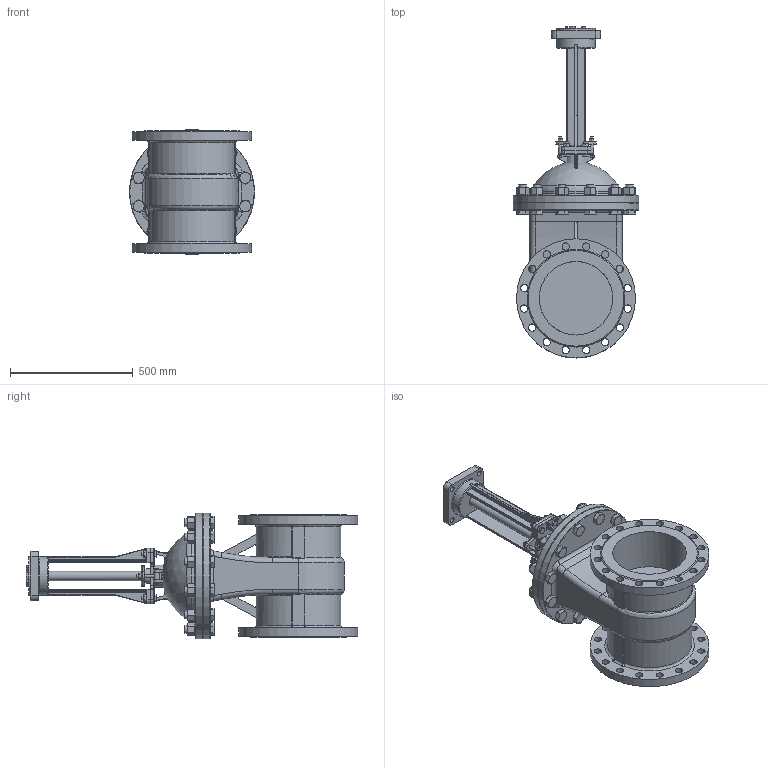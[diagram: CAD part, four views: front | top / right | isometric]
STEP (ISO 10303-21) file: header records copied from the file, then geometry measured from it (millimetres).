
FILE_DESCRIPTION(('STEP AP242'), '1');
FILE_NAME('GVWR2121M-2W-F-ÎÑÒ Çàäâèæêà êëèíîâàÿ ñ âûäâèæíûì øòîêîì Äó300 Ðó25', '2026-05-31T15:26:20', ('R2D2'), (''), 'C3D Converter', 'C3D Toolkit', '');
FILE_SCHEMA(('AP242_MANAGED_MODEL_BASED_3D_ENGINEERING_MIM_LF { 1 0 10303 442 1 1 4 }'));
Length unit declared in the file: millimetre
Products named in the file (1): GVWR2121M-2W-F-ОСТ
Bounding box: 510 x 1352.5 x 510 mm (x, y, z)
Volume: 71293178 mm3; surface area: 3025834.1 mm2
Topology: 1 solids, 13 shells, 1468 faces, 3585 edges, 2220 vertices
Faces by surface type: plane 643, cone 288, cylinder 270, extrusion 124, bspline 73, torus 61, sphere 5, revolution 4
Full cylindrical faces by diameter (mm): 10.5 x4, 12 x4, 15 x8, 22 x4, 22.5 x2, 24 x4, 30 x68, 37.5 x2, 41.85 x12, 45 x9, 60 x1, 70 x1, 155 x2, 300 x2, 360 x2, 485 x2, 510 x2
Entity records: 91832 total; most frequent: CARTESIAN_POINT 48076, ORIENTED_EDGE 6788, DIRECTION 5793, EDGE_CURVE 3394, VERTEX_POINT 2218, AXIS2_PLACEMENT_3D 2165, EDGE_LOOP 1878, FACE_BOUND 1630
